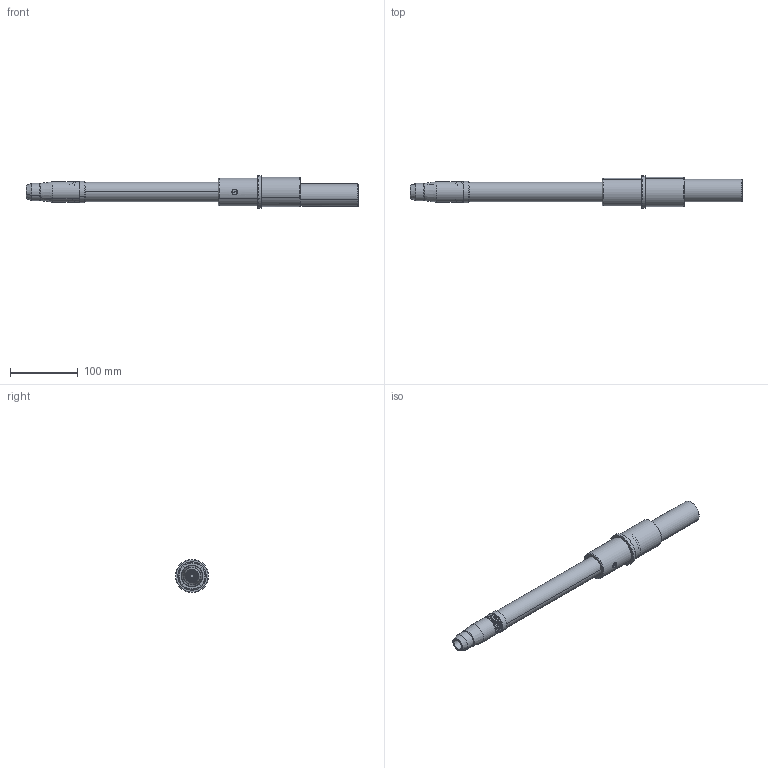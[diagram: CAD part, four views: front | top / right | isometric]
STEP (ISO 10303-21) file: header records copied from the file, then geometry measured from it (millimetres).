
FILE_DESCRIPTION (( 'STEP AP214' ), '1' );
FILE_NAME ('36910.STEP', '2021-03-18T18:42:07', ( '' ), ( '' ), 'SwSTEP 2.0', 'SolidWorks 2019', '' );
FILE_SCHEMA (( 'AUTOMOTIVE_DESIGN' ));
Length unit declared in the file: inch
Products named in the file (16): 13197; 36828; 10362; 10502; 36910; 36824; 13163; 12610; 36825; Part H 13001 RH Gas fitting; 13230; 36820; 14051; 13205; 36826 36827; 16202
Assembly tree (15 placements, depth 2):
  36910
    36820
    10502
    36824
    13230
    36828
    36825
    36826 36827
    16202
    13205
    13163
    13197
    10362
    Part H 13001 RH Gas fitting
    12610
    14051
Bounding box: 491.54 x 48.85 x 48.85 mm (x, y, z)
Volume: 260610.5 mm3; surface area: 150617.2 mm2
Topology: 15 solids, 15 shells, 628 faces, 1591 edges, 1014 vertices
Faces by surface type: cylinder 344, plane 99, torus 73, cone 63, bspline 49
Entity records: 44172 total; most frequent: CARTESIAN_POINT 29342, ORIENTED_EDGE 3182, DIRECTION 2582, EDGE_CURVE 1591, AXIS2_PLACEMENT_3D 1053, VERTEX_POINT 1014, EDGE_LOOP 703, ADVANCED_FACE 628
